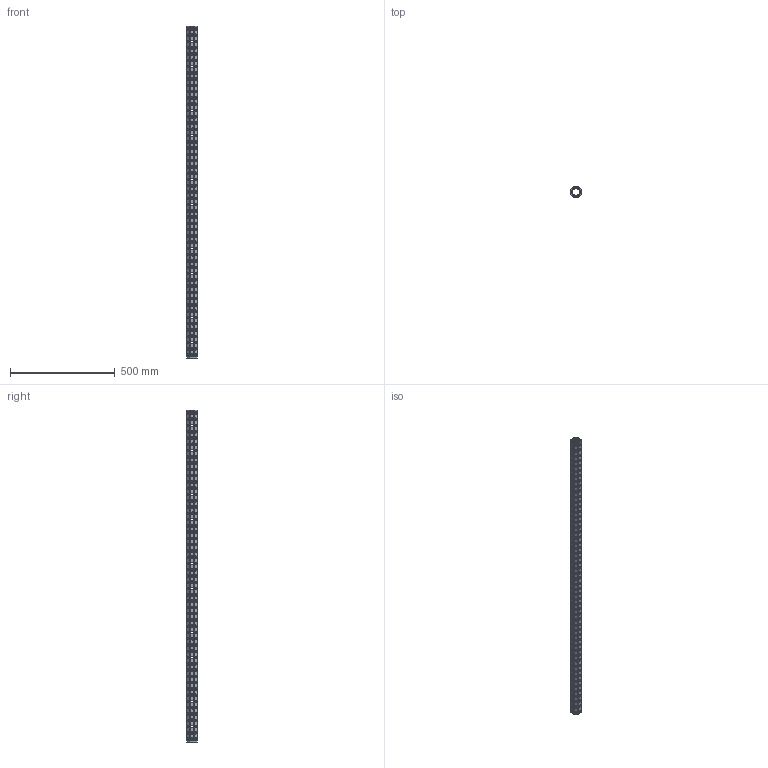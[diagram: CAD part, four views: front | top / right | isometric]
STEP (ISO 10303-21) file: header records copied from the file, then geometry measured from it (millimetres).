
FILE_DESCRIPTION(('CATIA V5 STEP Exchange'),'2;1');
FILE_NAME('U:\Room\唐宝山\EGT002\46-01-010282-01-EGT002-1588.stp','2021-08-24T01:30:50+00:00',('none'),('none'),'CATIA Version 5 Release 21 GA (IN-10)','CATIA V5 STEP AP203','none');
FILE_SCHEMA(('CONFIG_CONTROL_DESIGN'));
Products named in the file (1): 46-01-010282-01-EGT002-1588
Bounding box: 50 x 50 x 1588 mm (x, y, z)
Volume: 1131384.5 mm3; surface area: 545826.4 mm2
Topology: 1 solids, 1 shells, 2204 faces, 6076 edges, 3768 vertices
Faces by surface type: cone 1272, cylinder 906, plane 26
Entity records: 95002 total; most frequent: CARTESIAN_POINT 42163, ORIENTED_EDGE 12152, DIRECTION 8309, EDGE_CURVE 6076, VERTEX_POINT 3768, AXIS2_PLACEMENT_3D 3750, EDGE_LOOP 2948, VECTOR 2356
